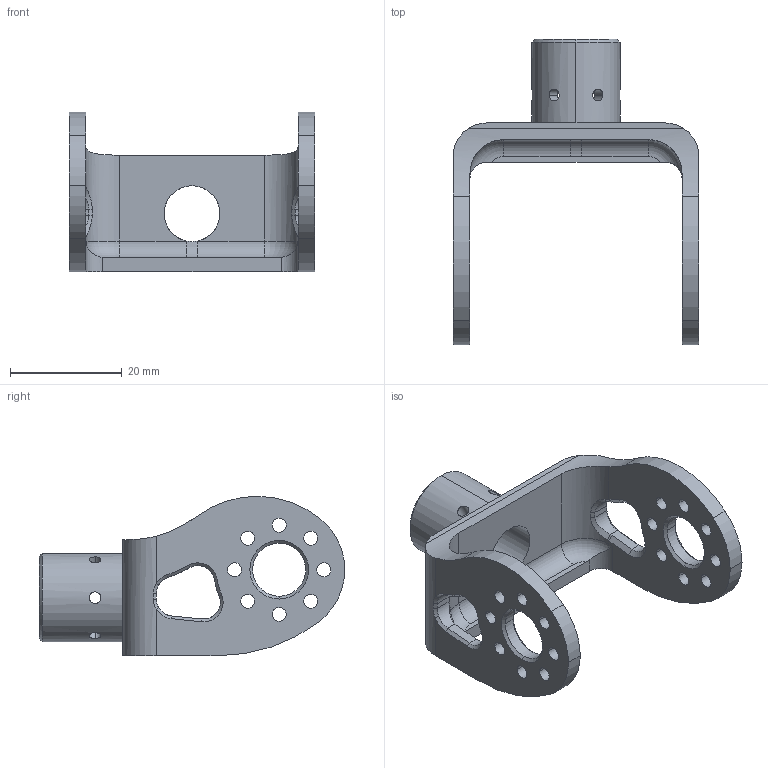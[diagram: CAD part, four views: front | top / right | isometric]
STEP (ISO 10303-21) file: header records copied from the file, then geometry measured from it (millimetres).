
FILE_DESCRIPTION (( 'STEP AP203' ), '1' );
FILE_NAME ('BR01_SHOULDER_CONNECTOR.STEP');
FILE_SCHEMA (( 'CONFIG_CONTROL_DESIGN' ));
Length unit declared in the file: millimetre
Products named in the file (1): BR01_SHOULDER_CONNECTOR
Bounding box: 44 x 54.75 x 28.57 mm (x, y, z)
Volume: 8544.9 mm3; surface area: 7164.4 mm2
Topology: 1 solids, 1 shells, 159 faces, 433 edges, 272 vertices
Faces by surface type: cylinder 85, cone 36, plane 23, bspline 13, torus 2
Entity records: 6810 total; most frequent: CARTESIAN_POINT 2653, ORIENTED_EDGE 866, DIRECTION 838, EDGE_CURVE 433, AXIS2_PLACEMENT_3D 337, VERTEX_POINT 272, EDGE_LOOP 209, CIRCLE 190
